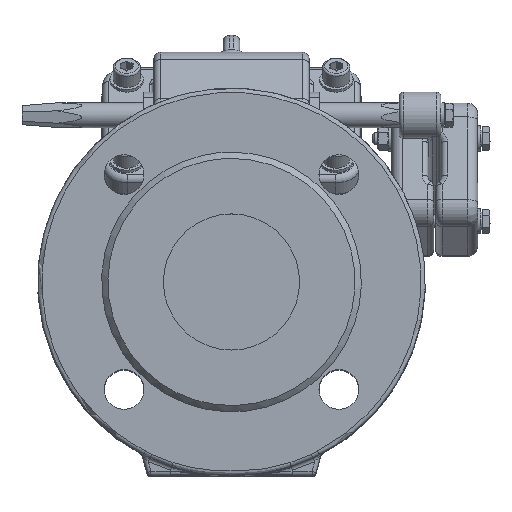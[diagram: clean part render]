
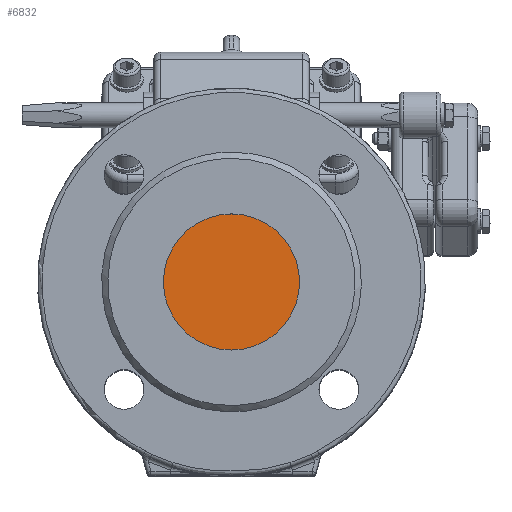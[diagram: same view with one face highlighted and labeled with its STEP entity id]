
A CAD part, top view. The second image highlights one B-rep face of the part: STEP entity #6832.
In plain terms, the highlighted planar face has unit normal (0, 0, 1).
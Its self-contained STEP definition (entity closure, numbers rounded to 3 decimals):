
#6832=ADVANCED_FACE('',(#20114),#20116,.F.);
#20114=FACE_BOUND('',#20115,.T.);
#20115=EDGE_LOOP('',(#27903,#27904));
#20116=PLANE('',#20117);
#20117=AXIS2_PLACEMENT_3D('',#20118,#20119,#20120);
#20118=CARTESIAN_POINT('',(-32.501,0.,105.));
#20119=DIRECTION('',(0.,0.,-1.));
#20120=DIRECTION('',(-1.,0.,0.));
#27903=ORIENTED_EDGE('',*,*,#31398,.T.);
#27904=ORIENTED_EDGE('',*,*,#31399,.T.);
#31398=EDGE_CURVE('',#35269,#35270,#35271,.T.);
#31399=EDGE_CURVE('',#35270,#35269,#35272,.T.);
#35269=VERTEX_POINT('',#64315);
#35270=VERTEX_POINT('',#64316);
#35271=CIRCLE('',#64317,32.5);
#35272=CIRCLE('',#64321,32.5);
#64315=CARTESIAN_POINT('',(-32.5,0.,105.));
#64316=CARTESIAN_POINT('',(0.,-32.5,105.));
#64317=AXIS2_PLACEMENT_3D('',#64318,#64319,#64320);
#64318=CARTESIAN_POINT('',(0.,0.,105.));
#64319=DIRECTION('',(0.,0.,1.));
#64320=DIRECTION('',(-1.,0.,0.));
#64321=AXIS2_PLACEMENT_3D('',#64322,#64323,#64324);
#64322=CARTESIAN_POINT('',(0.,0.,105.));
#64323=DIRECTION('',(0.,0.,1.));
#64324=DIRECTION('',(0.,-1.,0.));
